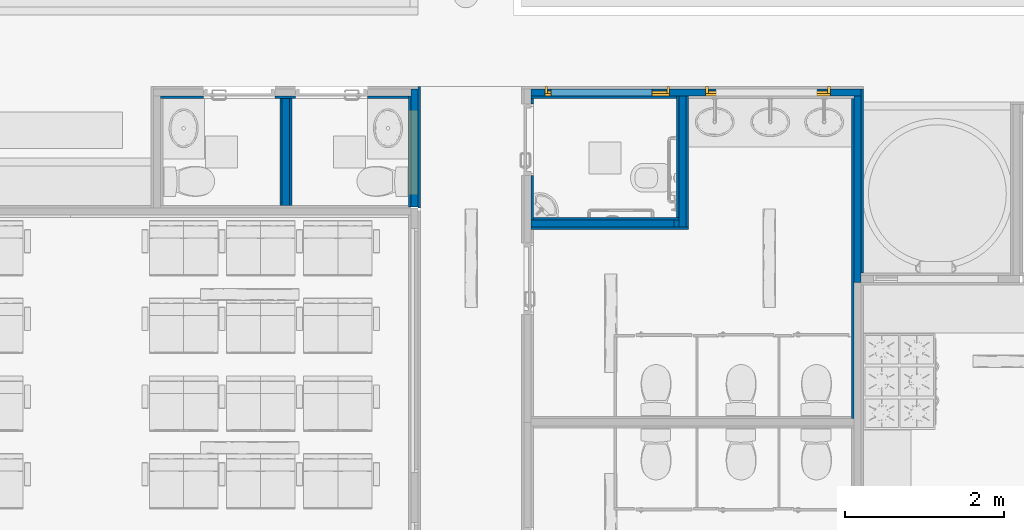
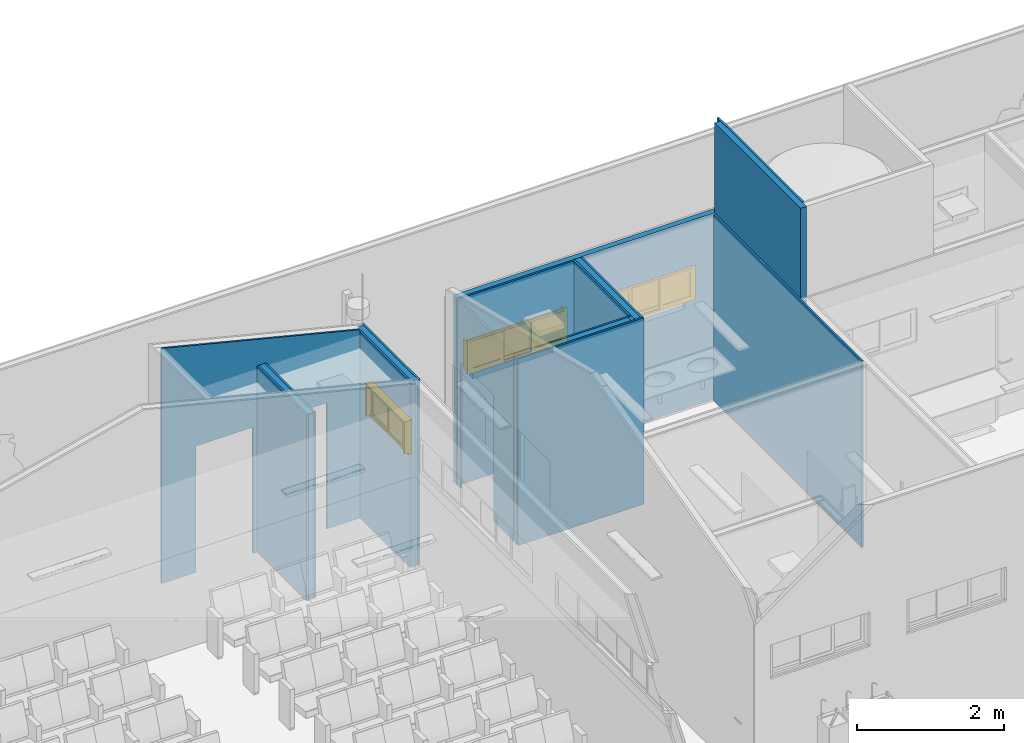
# One storey, part 35 of 155: 21 walls, 3 windows, 8 openings.
"""IFC2X3 building model written with IfcOpenShell, lengths in metres."""

import ifcopenshell
import ifcopenshell.guid

model = None  # the IFC model being written
_history = None  # IfcOwnerHistory: only IFC2X3 demands one
_inside = {}  # id of a spatial element -> (the spatial element, [elements in it])
_under = {}  # id of a project, library or spatial element -> (it, [spatial elements below it])
_declared = {}  # id of a project -> (the project, [libraries it declares])
_typed = {}  # id of a type object -> (the type object, [elements of that type])
_made_of = {}  # id of a material, layer set ... -> (it, [elements and type objects made of it])


def new_model(schema):
    """Start an empty IFC model of exactly this schema.

    Asked for "IFC4X3", IfcOpenShell would pick the latest addendum, in which some entities
    have other attributes; the version numbers below select the first issue.
    IFC2X3 requires an IfcOwnerHistory on every rooted entity: one is made here for all.
    """
    global model, _history
    if schema == "IFC4X3":
        model = ifcopenshell.file(schema_version=(4, 3, 0, 0))
    else:
        model = ifcopenshell.file(schema=schema)
    _inside.clear()
    _under.clear()
    _declared.clear()
    _typed.clear()
    _made_of.clear()
    _history = None
    if model.schema == "IFC2X3":
        org = make("IfcOrganization", Name="unknown")
        user = make(
            "IfcPersonAndOrganization",
            ThePerson=make("IfcPerson", FamilyName="unknown"),
            TheOrganization=org,
        )
        app = make(
            "IfcApplication",
            ApplicationDeveloper=org,
            Version="unknown",
            ApplicationFullName="unknown",
            ApplicationIdentifier="unknown",
        )
        _history = make(
            "IfcOwnerHistory",
            OwningUser=user,
            OwningApplication=app,
            ChangeAction="ADDED",
            CreationDate=0,
        )
    return model


def make(cls, **values):
    """One entity of the class cls with the attributes given. An attribute that is None is left unset."""
    return model.create_entity(
        cls, **{name: value for name, value in values.items() if value is not None}
    )


def entity(cls, *values):
    """Any entity or typed value of the class cls, its attributes in the order of the schema. None: left unset."""
    e = model.create_entity(cls)
    for i, value in enumerate(values):
        if value is not None:
            e[i] = value
    return e


def rooted(cls, **values):
    """An entity with a GlobalId (a new one), such as an element, a storey or a relation."""
    return make(cls, GlobalId=ifcopenshell.guid.new(), OwnerHistory=_history, **values)


def si_unit(unit_type, name, prefix=None):
    """IfcSIUnit, for example si_unit("LENGTHUNIT", "METRE", prefix="MILLI")."""
    return make("IfcSIUnit", UnitType=unit_type, Prefix=prefix, Name=name)


def converted_unit(unit_type, name, factor, base, dimensions=None, offset=None):
    """IfcConversionBasedUnit, such as the inch: factor (a typed value) times the base unit."""
    return make(
        "IfcConversionBasedUnit"
        if offset is None
        else "IfcConversionBasedUnitWithOffset",
        ConversionOffset=offset,
        Dimensions=None
        if dimensions is None
        else entity("IfcDimensionalExponents", *dimensions),
        UnitType=unit_type,
        Name=name,
        ConversionFactor=make(
            "IfcMeasureWithUnit", ValueComponent=factor, UnitComponent=base
        ),
    )


def derived_unit(unit_type, elements):
    """IfcDerivedUnit: a product of units, each with its exponent."""
    return make(
        "IfcDerivedUnit",
        Elements=[
            make("IfcDerivedUnitElement", Unit=unit, Exponent=power)
            for unit, power in elements
        ],
        UnitType=unit_type,
    )


def assignment(units):
    """IfcUnitAssignment: the units of a project."""
    return None if units is None else make("IfcUnitAssignment", Units=units)


def point(xyz):
    """IfcCartesianPoint."""
    return None if xyz is None else make("IfcCartesianPoint", Coordinates=xyz)


def direction(xyz):
    """IfcDirection."""
    return None if xyz is None else make("IfcDirection", DirectionRatios=xyz)


def frame(location, z_axis=None, x_axis=None):
    """IfcAxis2Placement3D, a coordinate frame: its origin and axes. An axis left out is left unset."""
    return make(
        "IfcAxis2Placement3D",
        Location=point(location),
        Axis=direction(z_axis),
        RefDirection=direction(x_axis),
    )


def frame_2d(location, x_axis=None):
    """IfcAxis2Placement2D, a coordinate frame in the plane: its origin and x axis."""
    return make(
        "IfcAxis2Placement2D", Location=point(location), RefDirection=direction(x_axis)
    )


def origin():
    """The frame at (0, 0, 0) with its axes left unset."""
    return frame((0.0, 0.0, 0.0))


def origin_2d_with_axis():
    """The frame at (0, 0) in the plane with the x axis (1, 0) written out."""
    return frame_2d((0.0, 0.0), x_axis=(1.0, 0.0))


def place(relative_to, where):
    """IfcLocalPlacement: puts the frame where relative to a parent placement (None: the world)."""
    return make(
        "IfcLocalPlacement", PlacementRelTo=relative_to, RelativePlacement=where
    )


def context(
    kind, dimensions, precision=None, world=None, true_north=None, identifier=None
):
    """IfcGeometricRepresentationContext, for example the 3D "Model" context."""
    return make(
        "IfcGeometricRepresentationContext",
        ContextIdentifier=identifier,
        ContextType=kind,
        CoordinateSpaceDimension=dimensions,
        Precision=precision,
        WorldCoordinateSystem=world,
        TrueNorth=true_north,
    )


def subcontext(parent, identifier, kind, view, scale=None):
    """IfcGeometricRepresentationSubContext, for example "Body" below "Model"."""
    return make(
        "IfcGeometricRepresentationSubContext",
        ContextIdentifier=identifier,
        ContextType=kind,
        ParentContext=parent,
        TargetScale=scale,
        TargetView=view,
    )


def project(units=None, contexts=None):
    """IfcProject with its units and contexts."""
    return rooted(
        "IfcProject",
        Name="project",
        RepresentationContexts=contexts,
        UnitsInContext=assignment(units),
    )


def spatial(cls, under=None, at=None, **own):
    """A site, building, storey or space (cls), placed at a placement, below another one or the project."""
    s = rooted(cls, ObjectPlacement=at, **own)
    if under is not None:
        _under.setdefault(under.id(), (under, []))[1].append(s)
    return s


def polyline(points):
    """IfcPolyline through the points."""
    return make("IfcPolyline", Points=[point(p) for p in points])


def profile(cls, at=None, kind="AREA", **sizes):
    """A parametric profile (cls). Its sizes go by their IFC names, for example OverallWidth=200.0."""
    return make(cls, ProfileType=kind, Position=at, **sizes)


def rectangle(**sizes):
    """IfcRectangleProfileDef."""
    return profile("IfcRectangleProfileDef", **sizes)


def outline(outer, holes=None, kind="AREA"):
    """IfcArbitraryClosedProfileDef: a profile drawn as a closed curve; with holes, ...WithVoids."""
    if holes is None:
        return make("IfcArbitraryClosedProfileDef", ProfileType=kind, OuterCurve=outer)
    return make(
        "IfcArbitraryProfileDefWithVoids",
        ProfileType=kind,
        OuterCurve=outer,
        InnerCurves=holes,
    )


def extrude(swept, where, along, depth):
    """IfcExtrudedAreaSolid: the profile swept, set in the frame where, extruded along a direction by depth."""
    return make(
        "IfcExtrudedAreaSolid",
        SweptArea=swept,
        Position=where,
        ExtrudedDirection=direction(along),
        Depth=depth,
    )


def clip(a, b, op="DIFFERENCE"):
    """IfcBooleanClippingResult: the solid a cut by the half space b."""
    return make(
        "IfcBooleanClippingResult", Operator=op, FirstOperand=a, SecondOperand=b
    )


def bounded_halfspace(plane, agree, where, boundary):
    """IfcPolygonalBoundedHalfSpace: a half space limited to a polygon's prism."""
    return make(
        "IfcPolygonalBoundedHalfSpace",
        BaseSurface=make("IfcPlane", Position=plane),
        AgreementFlag=agree,
        Position=where,
        PolygonalBoundary=boundary,
    )


def shape(context_of_items, identifier, shape_type, items):
    """IfcShapeRepresentation: the items that make up one representation, for example the "Body"."""
    return make(
        "IfcShapeRepresentation",
        ContextOfItems=context_of_items,
        RepresentationIdentifier=identifier,
        RepresentationType=shape_type,
        Items=items,
    )


def source(mapping_origin, context_of_items, identifier, shape_type, items):
    """IfcRepresentationMap: a shape defined once, which mapped items show again and again."""
    return make(
        "IfcRepresentationMap",
        MappingOrigin=mapping_origin,
        MappedRepresentation=shape(context_of_items, identifier, shape_type, items),
    )


def transform(
    local_origin,
    x_axis=None,
    y_axis=None,
    z_axis=None,
    scale=None,
    scale2=None,
    scale3=None,
    uniform=True,
):
    """IfcCartesianTransformationOperator3D, or its non-uniform kind. x_axis, y_axis, z_axis: its Axis1, 2, 3."""
    if uniform:
        return make(
            "IfcCartesianTransformationOperator3D",
            Axis1=direction(x_axis),
            Axis2=direction(y_axis),
            LocalOrigin=point(local_origin),
            Scale=scale,
            Axis3=direction(z_axis),
        )
    return make(
        "IfcCartesianTransformationOperator3DnonUniform",
        Axis1=direction(x_axis),
        Axis2=direction(y_axis),
        LocalOrigin=point(local_origin),
        Scale=scale,
        Axis3=direction(z_axis),
        Scale2=scale2,
        Scale3=scale3,
    )


def mapped(mapping_source, mapping_target):
    """IfcMappedItem: shows the shape of a source again, moved by a transform."""
    return make(
        "IfcMappedItem", MappingSource=mapping_source, MappingTarget=mapping_target
    )


def material(Name=None, Category=None):
    """IfcMaterial."""
    return make("IfcMaterial", Name=Name, Category=Category)


def material_list(materials):
    """IfcMaterialList."""
    return make("IfcMaterialList", Materials=materials)


def layer(
    of_material, thickness, ventilated=None, Name=None, Category=None, Priority=None
):
    """IfcMaterialLayer: one layer of a wall or slab, of a material (None: an air gap)."""
    return make(
        "IfcMaterialLayer",
        Material=of_material,
        LayerThickness=thickness,
        IsVentilated=ventilated,
        Name=Name,
        Category=Category,
        Priority=Priority,
    )


def layer_set(layers, Name=None):
    """IfcMaterialLayerSet."""
    return make("IfcMaterialLayerSet", MaterialLayers=layers, LayerSetName=Name)


def layer_usage(for_layer_set, set_direction, sense, offset, extent=None):
    """IfcMaterialLayerSetUsage: how a layer set lies in its element."""
    return make(
        "IfcMaterialLayerSetUsage",
        ForLayerSet=for_layer_set,
        LayerSetDirection=set_direction,
        DirectionSense=sense,
        OffsetFromReferenceLine=offset,
        ReferenceExtent=extent,
    )


def made_of(thing, what):
    """Note that an element or type object is made of a material, layer set ...; save() writes the relation."""
    if what is not None:
        _made_of.setdefault(what.id(), (what, []))[1].append(thing)
    return thing


def type_object(cls, material=None, **own):
    """A type object (cls), such as IfcWallType, which elements share."""
    return made_of(rooted(cls, **own), material)


def type_shapes(of_type, sources):
    """Give a type object the sources (RepresentationMaps) that its elements show as mapped items."""
    of_type.RepresentationMaps = sources


def element(
    cls,
    number,
    at=None,
    inside=None,
    cuts=None,
    type_object=None,
    material=None,
    context=None,
    identifier="Body",
    shape_type=None,
    held_by="IfcProductDefinitionShape",
    body=None,
    shapes=None,
    **own,
):
    """One element of the class cls, such as IfcWall. Its Tag is "e" and its number.

    at: its placement. inside: the storey or other place that contains it. cuts: it is an
    opening in that element (IfcRelVoidsElement). A single representation is given by context,
    identifier, shape_type and body (its items); several are given by shapes. held_by: the class
    of the entity that holds the representations. save() writes the other relations.
    """
    e = rooted(cls, Tag="e%d" % number, ObjectPlacement=at, **own)
    if body is not None:
        shapes = [shape(context, identifier, shape_type, body)]
    if shapes is not None:
        e.Representation = make(held_by, Representations=shapes)
    if inside is not None:
        _inside.setdefault(inside.id(), (inside, []))[1].append(e)
    if cuts is not None:
        rooted(
            "IfcRelVoidsElement", RelatingBuildingElement=cuts, RelatedOpeningElement=e
        )
    if type_object is not None:
        _typed.setdefault(type_object.id(), (type_object, []))[1].append(e)
    return made_of(e, material)


def fill(opening, filler):
    """IfcRelFillsElement: the door or window that sits in an opening."""
    return rooted(
        "IfcRelFillsElement",
        RelatingOpeningElement=opening,
        RelatedBuildingElement=filler,
    )


def aggregate(whole, parts):
    """IfcRelAggregates: a whole, such as a stair, and the parts it consists of."""
    return rooted("IfcRelAggregates", RelatingObject=whole, RelatedObjects=parts)


def save(model, path):
    """Write the relations noted so far, then the file.

    IfcRelAggregates (storeys below a building ...), IfcRelContainedInSpatialStructure (elements
    in a storey), IfcRelDefinesByType, IfcRelAssociatesMaterial and IfcRelDeclares: one each for
    every whole, place, type object, material and project.
    """
    for whole, parts in _under.values():
        aggregate(whole, parts)
    for where, things in _inside.values():
        rooted(
            "IfcRelContainedInSpatialStructure",
            RelatedElements=things,
            RelatingStructure=where,
        )
    for kind, things in _typed.values():
        rooted("IfcRelDefinesByType", RelatedObjects=things, RelatingType=kind)
    for what, things in _made_of.values():
        rooted("IfcRelAssociatesMaterial", RelatedObjects=things, RelatingMaterial=what)
    for by, libraries in _declared.values():
        rooted("IfcRelDeclares", RelatingContext=by, RelatedDefinitions=libraries)
    model.write(path)


model = new_model("IFC2X3")

# Units and contexts
model_context = context("Model", 3, precision=1e-05, world=origin(), true_north=direction((6.12303176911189e-17, 1.0)))
body_context = subcontext(model_context, "Body", "Model", "MODEL_VIEW")
ifc_project = project(units=[si_unit("LENGTHUNIT", "METRE"), si_unit("AREAUNIT", "SQUARE_METRE"), si_unit("VOLUMEUNIT", "CUBIC_METRE"), converted_unit("PLANEANGLEUNIT", "DEGREE", entity("IfcRatioMeasure", 0.0174532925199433), si_unit("PLANEANGLEUNIT", "RADIAN"), dimensions=[0, 0, 0, 0, 0, 0, 0]), si_unit("MASSUNIT", "GRAM", prefix="KILO"), derived_unit("MASSDENSITYUNIT", [(si_unit("MASSUNIT", "GRAM", prefix="KILO"), 1), (si_unit("LENGTHUNIT", "METRE"), -3)]), si_unit("TIMEUNIT", "SECOND"), si_unit("FREQUENCYUNIT", "HERTZ"), si_unit("THERMODYNAMICTEMPERATUREUNIT", "DEGREE_CELSIUS"), derived_unit("THERMALTRANSMITTANCEUNIT", [(si_unit("MASSUNIT", "GRAM", prefix="KILO"), 1), (si_unit("THERMODYNAMICTEMPERATUREUNIT", "KELVIN"), -1), (si_unit("TIMEUNIT", "SECOND"), -3)]), derived_unit("VOLUMETRICFLOWRATEUNIT", [(si_unit("LENGTHUNIT", "METRE"), 3), (si_unit("TIMEUNIT", "SECOND"), -1)]), si_unit("ELECTRICCURRENTUNIT", "AMPERE"), si_unit("ELECTRICVOLTAGEUNIT", "VOLT"), si_unit("POWERUNIT", "WATT"), si_unit("FORCEUNIT", "NEWTON", prefix="KILO"), si_unit("ILLUMINANCEUNIT", "LUX"), si_unit("LUMINOUSFLUXUNIT", "LUMEN"), si_unit("LUMINOUSINTENSITYUNIT", "CANDELA"), derived_unit("USERDEFINED", [(si_unit("MASSUNIT", "GRAM", prefix="KILO"), -1), (si_unit("LENGTHUNIT", "METRE"), -2), (si_unit("TIMEUNIT", "SECOND"), 3), (si_unit("LUMINOUSFLUXUNIT", "LUMEN"), 1)]), derived_unit("LINEARVELOCITYUNIT", [(si_unit("LENGTHUNIT", "METRE"), 1), (si_unit("TIMEUNIT", "SECOND"), -1)]), si_unit("PRESSUREUNIT", "PASCAL"), derived_unit("USERDEFINED", [(si_unit("LENGTHUNIT", "METRE"), -2), (si_unit("MASSUNIT", "GRAM", prefix="KILO"), 1), (si_unit("TIMEUNIT", "SECOND"), -2)])], contexts=[model_context])

# Site, building, storey
site_placement = place(None, frame((26.9889013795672, -17.5624287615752, 0.0)))
site = spatial("IfcSite", under=ifc_project, at=site_placement, Name="Default", CompositionType="ELEMENT")
building_placement = place(site_placement, origin())
building = spatial("IfcBuilding", under=site, at=building_placement, Name="C. C. L. Monsenhor Antônio Sampaio", CompositionType="ELEMENT")
storey_placement = place(building_placement, frame((0.0, 0.0, 1.19999999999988)))
storey = spatial("IfcBuildingStorey", under=building, at=storey_placement, Name="Nível 1.2", CompositionType="ELEMENT", Elevation=1.19999999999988)

# Wall, openings, windows
ifc_material_1 = material(Name="ALVENARIA")
ifc_layer_1 = layer(ifc_material_1, 0.09)
ifc_layer_set_1 = layer_set([ifc_layer_1], Name="Parede básica:ENucleo parede 15cm")
ifc_layer_usage_1 = layer_usage(ifc_layer_set_1, "AXIS2", "POSITIVE", -0.045)
wall_type_1 = type_object("IfcWallType", Name="Parede básica:ENucleo parede 15cm", PredefinedType="STANDARD", material=ifc_layer_set_1)
wall_1_placement = place(storey_placement, frame((-4.45055229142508, -8.52939236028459, 0.0)))
wall_1 = element("IfcWallStandardCase", 1, at=wall_1_placement, inside=storey, type_object=wall_type_1, material=ifc_layer_usage_1, Name="Parede básica:ENucleo parede 15cm", ObjectType="Parede básica:ENucleo parede 15cm", context=body_context, shape_type="SweptSolid", body=[
    extrude(rectangle(XDim=4.15000000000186, YDim=0.089999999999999, at=frame_2d((2.07500000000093, -1.49186218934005e-16), x_axis=(-1.0, 0.0))), origin(), (0.0, 0.0, 1.0), 3.10000000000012),
])
opening_1_placement = place(wall_1_placement, frame((2.19336474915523, -0.0450000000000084, 1.76500000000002)))
opening_1 = element("IfcOpeningElement", 2, at=opening_1_placement, cuts=wall_1, Name="Janela 150x1:150 x 50:1", ObjectType="Opening", context=body_context, shape_type="SweptSolid", body=[
    extrude(rectangle(XDim=0.570000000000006, YDim=1.56999999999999, at=frame_2d((0.285000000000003, 0.784999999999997), x_axis=(1.0, 0.0))), frame((0.0, 0.0, 0.0), z_axis=(0.0, 1.0, 0.0), x_axis=(0.0, 0.0, 1.0)), (0.0, 0.0, 1.0), 0.09),
])
opening_2_placement = place(wall_1_placement, frame((4.45055229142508, 8.52939236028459, 0.0)))
element("IfcOpeningElement", 3, at=opening_2_placement, cuts=wall_1, Name="Parede básica:ENucleo parede 15cm", ObjectType="Opening", context=body_context, shape_type="SweptSolid", body=[
    extrude(rectangle(XDim=0.47000000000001, YDim=1.26999999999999, at=frame_2d((0.0, -2.77555756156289e-16), x_axis=(1.0, 0.0))), frame((-1.48718754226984, -10.0983923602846, 1.90000000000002), z_axis=(0.0, 1.0, 0.0), x_axis=(0.0, 0.0, 1.0)), (0.0, 0.0, 1.0), 3.048),
])
opening_3_placement = place(wall_1_placement, frame((0.173364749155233, -0.0450000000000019, 1.76500000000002)))
opening_3 = element("IfcOpeningElement", 4, at=opening_3_placement, cuts=wall_1, Name="Janela 150x1:150 x 50:1", ObjectType="Opening", context=body_context, shape_type="SweptSolid", body=[
    extrude(rectangle(XDim=0.570000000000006, YDim=1.56999999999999, at=frame_2d((0.285000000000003, 0.784999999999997), x_axis=(1.0, 0.0))), frame((0.0, 0.0, 0.0), z_axis=(0.0, 1.0, 0.0), x_axis=(0.0, 0.0, 1.0)), (0.0, 0.0, 1.0), 0.09),
])
opening_4_placement = place(wall_1_placement, frame((4.45055229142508, 8.52939236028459, 0.0)))
element("IfcOpeningElement", 5, at=opening_4_placement, cuts=wall_1, Name="Parede básica:ENucleo parede 15cm", ObjectType="Opening", context=body_context, shape_type="SweptSolid", body=[
    extrude(rectangle(XDim=0.47000000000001, YDim=1.26999999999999, at=frame_2d((0.0, -2.77555756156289e-16), x_axis=(1.0, 0.0))), frame((-3.56555229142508, -10.0983923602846, 1.90000000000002), z_axis=(0.0, 1.0, 0.0), x_axis=(0.0, 0.0, 1.0)), (0.0, 0.0, 1.0), 3.048),
])
ifc_material_2 = material(Name="VIDRO COMUM LISO VERDE")
ifc_material_3 = material(Name="ALUMÍNIO COM PINTURA ELETROSTÁTICA BRANCA")
ifc_material_list_1 = material_list([ifc_material_2, ifc_material_3])
ifc_material_list_2 = material_list([ifc_material_2, ifc_material_3])
window_style_1 = type_object("IfcWindowStyle", Name="150 x 50", ConstructionType="NOTDEFINED", OperationType="NOTDEFINED", ParameterTakesPrecedence=False, Sizeable=False, material=ifc_material_list_2)
shared_shape_1 = source(origin(), body_context, "Body", "SweptSolid", [
    extrude(rectangle(XDim=0.43333, YDim=0.00599999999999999, at=frame_2d((2.77555756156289e-17, 0.0), x_axis=(1.0, 0.0))), frame((0.301610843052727, 0.00749999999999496, 0.0849999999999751), z_axis=(0.0, 0.0, 1.0), x_axis=(-1.0, 0.0, 0.0)), (0.0, 0.0, 1.0), 0.4),
    extrude(outline(polyline([(-0.250000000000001, -0.266665), (0.250000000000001, -0.266665), (0.250000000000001, 0.266665), (-0.250000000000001, 0.266665), (-0.250000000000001, -0.266665)]), holes=[polyline([(-0.200000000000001, -0.216665), (-0.200000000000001, 0.216665), (0.200000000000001, 0.216665), (0.200000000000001, -0.216665), (-0.200000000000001, -0.216665)])]), frame((0.301610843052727, -0.00500000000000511, 0.284999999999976), z_axis=(0.0, 1.0, 0.0), x_axis=(0.0, 0.0, -1.0)), (0.0, 0.0, 1.0), 0.025),
    extrude(rectangle(XDim=0.00599999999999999, YDim=0.43333, at=origin_2d_with_axis()), frame((0.784999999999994, 0.0324999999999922, 0.0849999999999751), z_axis=(0.0, 0.0, 1.0), x_axis=(0.0, -1.0, 0.0)), (0.0, 0.0, 1.0), 0.4),
    extrude(outline(polyline([(-0.266665, -0.250000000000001), (0.266665, -0.250000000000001), (0.266665, 0.250000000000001), (-0.266665, 0.250000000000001), (-0.266665, -0.250000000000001)]), holes=[polyline([(-0.216665, -0.200000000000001), (-0.216665, 0.200000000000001), (0.216665, 0.200000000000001), (0.216665, -0.200000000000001), (-0.216665, -0.200000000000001)])]), frame((0.784999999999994, 0.0199999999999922, 0.284999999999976), z_axis=(0.0, 1.0, 0.0), x_axis=(1.0, 0.0, 0.0)), (0.0, 0.0, 1.0), 0.025),
    extrude(rectangle(XDim=0.00599999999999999, YDim=0.43333, at=frame_2d((0.0, -2.77555756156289e-17), x_axis=(1.0, 0.0))), frame((1.26838915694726, 0.00749999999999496, 0.0849999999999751), z_axis=(0.0, 0.0, 1.0), x_axis=(0.0, -1.0, 0.0)), (0.0, 0.0, 1.0), 0.4),
    extrude(outline(polyline([(-0.266665, -0.250000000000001), (0.266665, -0.250000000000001), (0.266665, 0.250000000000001), (-0.266665, 0.250000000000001), (-0.266665, -0.250000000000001)]), holes=[polyline([(-0.216665, -0.200000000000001), (-0.216665, 0.200000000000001), (0.216665, 0.200000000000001), (0.216665, -0.200000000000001), (-0.216665, -0.200000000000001)])]), frame((1.26838915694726, -0.00500000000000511, 0.284999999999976), z_axis=(0.0, 1.0, 0.0), x_axis=(1.0, 0.0, 0.0)), (0.0, 0.0, 1.0), 0.025),
    extrude(rectangle(XDim=0.12, YDim=0.0349999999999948, at=origin_2d_with_axis()), frame((1.55249999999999, 0.06, 0.0349999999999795), z_axis=(0.0, 0.0, 1.0), x_axis=(0.0, -1.0, 0.0)), (0.0, 0.0, 1.0), 0.500000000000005),
    extrude(rectangle(XDim=0.12, YDim=0.0349999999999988, at=origin_2d_with_axis()), frame((0.0174999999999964, 0.06, 0.0349999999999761), z_axis=(0.0, 0.0, 1.0), x_axis=(0.0, -1.0, 0.0)), (0.0, 0.0, 1.0), 0.500000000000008),
    extrude(rectangle(XDim=0.06, YDim=1.57, at=origin_2d_with_axis()), frame((0.784999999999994, 0.03, 0.0), z_axis=(0.0, 0.0, 1.0), x_axis=(0.0, -1.0, 0.0)), (0.0, 0.0, 1.0), 0.0349999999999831),
    extrude(rectangle(XDim=0.03, YDim=1.56999999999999, at=origin_2d_with_axis()), frame((0.784999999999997, 0.015, 0.534999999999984), z_axis=(0.0, 0.0, 1.0), x_axis=(0.0, -1.0, 0.0)), (0.0, 0.0, 1.0), 0.0350000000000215),
])
type_shapes(window_style_1, [shared_shape_1])
window_1_placement = place(opening_1_placement, origin())
window_1 = element("IfcWindow", 6, at=window_1_placement, inside=storey, type_object=window_style_1, material=ifc_material_list_1, Name="Janela 150x1:150 x 50", ObjectType="150 x 50", OverallHeight=0.570000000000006, OverallWidth=1.56999999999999, context=body_context, shape_type="MappedRepresentation", body=[
    mapped(shared_shape_1, transform((0.0, 0.0, 0.0), scale=1.0)),
])
fill(opening_1, window_1)
ifc_material_list_3 = material_list([ifc_material_2, ifc_material_3])
window_2_placement = place(opening_3_placement, origin())
window_2 = element("IfcWindow", 7, at=window_2_placement, inside=storey, type_object=window_style_1, material=ifc_material_list_3, Name="Janela 150x1:150 x 50", ObjectType="150 x 50", OverallHeight=0.570000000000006, OverallWidth=1.56999999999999, context=body_context, shape_type="MappedRepresentation", body=[
    mapped(shared_shape_1, transform((0.0, 0.0, 0.0), scale=1.0)),
])
fill(opening_3, window_2)

# Walls
ifc_layer_usage_2 = layer_usage(ifc_layer_set_1, "AXIS2", "NEGATIVE", 0.045)
wall_2_placement = place(storey_placement, frame((-0.345552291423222, -8.5743923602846, 0.0), z_axis=(0.0, 0.0, 1.0), x_axis=(0.0, -1.0, 0.0)))
element("IfcWallStandardCase", 8, at=wall_2_placement, inside=storey, type_object=wall_type_1, material=ifc_layer_usage_2, Name="Parede básica:ENucleo parede 15cm", ObjectType="Parede básica:ENucleo parede 15cm", context=body_context, shape_type="SweptSolid", body=[
    extrude(rectangle(XDim=2.34867398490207, YDim=0.09, at=frame_2d((1.17433699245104, 0.0), x_axis=(-1.0, 0.0))), origin(), (0.0, 0.0, 1.0), 4.60000000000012),
])
ifc_layer_usage_3 = layer_usage(ifc_layer_set_1, "AXIS2", "POSITIVE", -0.045)
wall_3_placement = place(storey_placement, frame((-4.45055229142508, -10.1780663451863, 0.0)))
element("IfcWallStandardCase", 9, at=wall_3_placement, inside=storey, type_object=wall_type_1, material=ifc_layer_usage_3, Name="Parede básica:ENucleo parede 15cm", ObjectType="Parede básica:ENucleo parede 15cm", context=body_context, shape_type="SweptSolid", body=[
    extrude(rectangle(XDim=1.79836474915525, YDim=0.0900000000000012, at=frame_2d((0.899182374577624, 3.46944695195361e-18), x_axis=(-1.0, 0.0))), origin(), (0.0, 0.0, 1.0), 3.10000000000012),
])
ifc_layer_usage_4 = layer_usage(ifc_layer_set_1, "AXIS2", "POSITIVE", -0.045)
wall_4_placement = place(storey_placement, frame((-4.20055229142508, -8.52939236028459, 1.66500000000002)))
element("IfcWallStandardCase", 10, at=wall_4_placement, inside=storey, type_object=wall_type_1, material=ifc_layer_usage_4, Name="Parede básica:ENucleo parede 15cm", ObjectType="Parede básica:ENucleo parede 15cm", context=body_context, shape_type="SweptSolid", body=[
    extrude(rectangle(XDim=1.26999999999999, YDim=0.0900000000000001, at=frame_2d((0.0, 5.41233724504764e-16), x_axis=(1.0, 0.0))), frame((0.634999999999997, 0.0, 0.0)), (0.0, 0.0, 1.0), 0.1),
])
ifc_layer_usage_5 = layer_usage(ifc_layer_set_1, "AXIS2", "POSITIVE", -0.045)
wall_5_placement = place(storey_placement, frame((-2.54718754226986, -10.2230663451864, 0.0), z_axis=(0.0, 0.0, 1.0), x_axis=(0.0, 1.0, 0.0)))
element("IfcWallStandardCase", 11, at=wall_5_placement, inside=storey, type_object=wall_type_1, material=ifc_layer_usage_5, Name="Parede básica:ENucleo parede 15cm", ObjectType="Parede básica:ENucleo parede 15cm", context=body_context, shape_type="SweptSolid", body=[
    extrude(rectangle(XDim=1.64867398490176, YDim=0.0900000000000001, at=frame_2d((0.82433699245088, 1.04083408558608e-16), x_axis=(-1.0, 0.0))), origin(), (0.0, 0.0, 1.0), 3.10000000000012),
])
ifc_layer_usage_6 = layer_usage(ifc_layer_set_1, "AXIS2", "NEGATIVE", 0.045)
wall_6_placement = place(storey_placement, frame((-2.59218754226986, -10.1780663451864, 0.0), z_axis=(0.0, 0.0, 1.0), x_axis=(-1.0, 0.0, 0.0)))
element("IfcWallStandardCase", 12, at=wall_6_placement, inside=storey, type_object=wall_type_1, material=ifc_layer_usage_6, Name="Parede básica:ENucleo parede 15cm", ObjectType="Parede básica:ENucleo parede 15cm", context=body_context, shape_type="SweptSolid", body=[
    extrude(rectangle(XDim=0.0599999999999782, YDim=0.0900000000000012, at=frame_2d((0.0299999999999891, 0.0), x_axis=(-1.0, 0.0))), origin(), (0.0, 0.0, 1.0), 3.10000000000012),
])

# Wall, opening, window
ifc_layer_usage_7 = layer_usage(ifc_layer_set_1, "AXIS2", "NEGATIVE", 0.045)
wall_7_placement = place(storey_placement, frame((-5.91555229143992, -9.9680663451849, 0.0), z_axis=(0.0, 0.0, 1.0), x_axis=(0.0, 1.0, 0.0)))
wall_7 = element("IfcWallStandardCase", 13, at=wall_7_placement, inside=storey, type_object=wall_type_1, material=ifc_layer_usage_7, Name="Parede básica:ENucleo parede 15cm", ObjectType="Parede básica:ENucleo parede 15cm", context=body_context, shape_type="SweptSolid", body=[
    extrude(rectangle(XDim=1.48117398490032, YDim=0.089999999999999, at=frame_2d((0.740586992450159, 1.04083408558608e-17), x_axis=(-1.0, 0.0))), origin(), (0.0, 0.0, 1.0), 3.10000000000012),
])
opening_5_placement = place(wall_7_placement, frame((0.148086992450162, -0.044999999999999, 1.765)))
opening_5 = element("IfcOpeningElement", 14, at=opening_5_placement, cuts=wall_7, Name="Janela 100x50:100 x 50:1", ObjectType="Opening", context=body_context, shape_type="SweptSolid", body=[
    extrude(rectangle(XDim=0.570000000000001, YDim=1.07, at=frame_2d((0.285, 0.535), x_axis=(1.0, 0.0))), frame((0.0, 0.0, 0.0), z_axis=(0.0, 1.0, 0.0), x_axis=(0.0, 0.0, 1.0)), (0.0, 0.0, 1.0), 0.09),
])
ifc_material_list_4 = material_list([ifc_material_2, ifc_material_3])
ifc_material_list_5 = material_list([ifc_material_2, ifc_material_3])
window_style_2 = type_object("IfcWindowStyle", Name="100 x 50", ConstructionType="NOTDEFINED", OperationType="NOTDEFINED", ParameterTakesPrecedence=False, Sizeable=False, material=ifc_material_list_5)
shared_shape_2 = source(origin(), body_context, "Body", "SweptSolid", [
    extrude(rectangle(XDim=0.00599999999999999, YDim=0.4475, at=origin_2d_with_axis()), frame((0.293749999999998, 0.0583758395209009, 0.0699999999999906), z_axis=(0.0, 0.0, 1.0), x_axis=(0.0, -1.0, 0.0)), (0.0, 0.0, 1.0), 0.43),
    extrude(outline(polyline([(-0.25875, -0.250000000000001), (0.25875, -0.250000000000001), (0.25875, 0.250000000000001), (-0.25875, 0.250000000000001), (-0.25875, -0.250000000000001)]), holes=[polyline([(-0.22375, -0.215000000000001), (-0.22375, 0.215), (0.22375, 0.215), (0.22375, -0.215000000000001), (-0.22375, -0.215000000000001)])]), frame((0.293749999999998, 0.0458758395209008, 0.284999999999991), z_axis=(0.0, 1.0, 0.0), x_axis=(1.0, 0.0, 0.0)), (0.0, 0.0, 1.0), 0.025),
    extrude(rectangle(XDim=0.4475, YDim=0.00599999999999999, at=origin_2d_with_axis()), frame((0.77625, 0.0333758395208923, 0.0699999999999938), z_axis=(0.0, 0.0, 1.0), x_axis=(-1.0, 0.0, 0.0)), (0.0, 0.0, 1.0), 0.43),
    extrude(outline(polyline([(-0.250000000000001, -0.25875), (0.250000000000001, -0.25875), (0.250000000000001, 0.25875), (-0.250000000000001, 0.25875), (-0.250000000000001, -0.25875)]), holes=[polyline([(-0.215000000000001, -0.22375), (-0.215000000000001, 0.22375), (0.215000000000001, 0.22375), (0.215000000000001, -0.22375), (-0.215000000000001, -0.22375)])]), frame((0.77625, 0.0208758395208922, 0.284999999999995), z_axis=(0.0, 1.0, 0.0), x_axis=(0.0, 0.0, -1.0)), (0.0, 0.0, 1.0), 0.025),
    extrude(rectangle(XDim=0.06, YDim=1.07, at=origin_2d_with_axis()), frame((0.534999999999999, 0.03, 0.0), z_axis=(0.0, 0.0, 1.0), x_axis=(0.0, -1.0, 0.0)), (0.0, 0.0, 1.0), 0.0349999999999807),
    extrude(rectangle(XDim=0.12, YDim=0.0349999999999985, at=origin_2d_with_axis()), frame((1.0525, 0.06, 0.0349999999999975), z_axis=(0.0, 0.0, 1.0), x_axis=(0.0, -1.0, 0.0)), (0.0, 0.0, 1.0), 0.500000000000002),
    extrude(rectangle(XDim=0.12, YDim=0.0350000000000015, at=origin_2d_with_axis()), frame((0.017499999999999, 0.06, 0.0349999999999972), z_axis=(0.0, 0.0, 1.0), x_axis=(0.0, -1.0, 0.0)), (0.0, 0.0, 1.0), 0.500000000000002),
    extrude(rectangle(XDim=0.12, YDim=1.07, at=origin_2d_with_axis()), frame((0.534999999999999, 0.06, 0.534999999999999), z_axis=(0.0, 0.0, 1.0), x_axis=(0.0, -1.0, 0.0)), (0.0, 0.0, 1.0), 0.0350000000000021),
])
type_shapes(window_style_2, [shared_shape_2])
window_3_placement = place(opening_5_placement, origin())
window_3 = element("IfcWindow", 15, at=window_3_placement, inside=storey, type_object=window_style_2, material=ifc_material_list_4, Name="Janela 100x50:100 x 50", ObjectType="100 x 50", OverallHeight=0.570000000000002, OverallWidth=1.07, context=body_context, shape_type="MappedRepresentation", body=[
    mapped(shared_shape_2, transform((0.0, 0.0, 0.0), scale=1.0)),
])
fill(opening_5, window_3)

# Walls
ifc_layer_usage_8 = layer_usage(ifc_layer_set_1, "AXIS2", "POSITIVE", -0.045)
wall_8_placement = place(storey_placement, frame((-7.53555229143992, -8.60689236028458, 0.0), z_axis=(0.0, 0.0, 1.0), x_axis=(0.0, -1.0, 0.0)))
element("IfcWallStandardCase", 16, at=wall_8_placement, inside=storey, type_object=wall_type_1, material=ifc_layer_usage_8, Name="Parede básica:ENucleo parede 15cm", ObjectType="Parede básica:ENucleo parede 15cm", context=body_context, shape_type="SweptSolid", body=[
    extrude(rectangle(XDim=1.34617398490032, YDim=0.089999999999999, at=frame_2d((0.673086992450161, 0.0), x_axis=(-1.0, 0.0))), origin(), (0.0, 0.0, 1.0), 3.10000000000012),
])
ifc_material_4 = material(Name=".CERÂMICA 10x10 BRANCA")
ifc_layer_2 = layer(ifc_material_4, 0.0035)
ifc_material_5 = material(Name="Argamassa Colante")
ifc_layer_3 = layer(ifc_material_5, 0.02)
ifc_material_6 = material(Name="4")
ifc_layer_4 = layer(ifc_material_6, 0.0015)
ifc_material_7 = material(Name="3")
ifc_layer_5 = layer(ifc_material_7, 0.005)
ifc_layer_set_2 = layer_set([ifc_layer_2, ifc_layer_3, ifc_layer_4, ifc_layer_5], Name="Parede básica:ECeramica branca 10x10cm")
ifc_layer_usage_9 = layer_usage(ifc_layer_set_2, "AXIS2", "NEGATIVE", 0.015)
wall_type_2 = type_object("IfcWallType", Name="Parede básica:ECeramica branca 10x10cm", PredefinedType="STANDARD", material=ifc_layer_set_2)
wall_9_placement = place(storey_placement, frame((-2.60718754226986, -10.1030663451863, 0.0), z_axis=(0.0, 0.0, 1.0), x_axis=(0.0, 1.0, 0.0)))
element("IfcWallStandardCase", 17, at=wall_9_placement, inside=storey, type_object=wall_type_2, material=ifc_layer_usage_9, Name="Parede básica:ECeramica branca 10x10cm", ObjectType="Parede básica:ECeramica branca 10x10cm", context=body_context, shape_type="SweptSolid", body=[
    extrude(rectangle(XDim=1.52867398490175, YDim=0.0299999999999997, at=frame_2d((0.764336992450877, -8.67361737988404e-19), x_axis=(-1.0, 0.0))), origin(), (0.0, 0.0, 1.0), 3.10000000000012),
])
ifc_layer_usage_10 = layer_usage(ifc_layer_set_2, "AXIS2", "POSITIVE", -0.015)
wall_10_placement = place(storey_placement, frame((-4.45055229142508, -10.2380663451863, 0.0)))
element("IfcWallStandardCase", 18, at=wall_10_placement, inside=storey, type_object=wall_type_2, material=ifc_layer_usage_10, Name="Parede básica:ECeramica branca 10x10cm", ObjectType="Parede básica:ECeramica branca 10x10cm", context=body_context, shape_type="SweptSolid", body=[
    extrude(rectangle(XDim=1.97836474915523, YDim=0.0300000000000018, at=frame_2d((0.989182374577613, 4.9439619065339e-17), x_axis=(-1.0, 0.0))), origin(), (0.0, 0.0, 1.0), 3.10000000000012),
])
ifc_layer_usage_11 = layer_usage(ifc_layer_set_2, "AXIS2", "POSITIVE", -0.015)
wall_11_placement = place(storey_placement, frame((-2.48718754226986, -10.2230663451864, 0.0), z_axis=(0.0, 0.0, 1.0), x_axis=(0.0, 1.0, 0.0)))
element("IfcWallStandardCase", 19, at=wall_11_placement, inside=storey, type_object=wall_type_2, material=ifc_layer_usage_11, Name="Parede básica:ECeramica branca 10x10cm", ObjectType="Parede básica:ECeramica branca 10x10cm", context=body_context, shape_type="SweptSolid", body=[
    extrude(rectangle(XDim=1.64867398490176, YDim=0.0299999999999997, at=frame_2d((0.82433699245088, 2.60208521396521e-18), x_axis=(-1.0, 0.0))), origin(), (0.0, 0.0, 1.0), 3.10000000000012),
])
ifc_layer_usage_12 = layer_usage(ifc_layer_set_2, "AXIS2", "POSITIVE", -0.015)
wall_12_placement = place(storey_placement, frame((-0.405552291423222, -8.6043923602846, 0.0), z_axis=(0.0, 0.0, 1.0), x_axis=(0.0, -1.0, 0.0)))
element("IfcWallStandardCase", 20, at=wall_12_placement, inside=storey, type_object=wall_type_2, material=ifc_layer_usage_12, Name="Parede básica:ECeramica branca 10x10cm", ObjectType="Parede básica:ECeramica branca 10x10cm", context=body_context, shape_type="SweptSolid", body=[
    extrude(rectangle(XDim=4.02867398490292, YDim=0.03, at=frame_2d((2.01433699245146, 2.60208521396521e-18), x_axis=(-1.0, 0.0))), origin(), (0.0, 0.0, 1.0), 3.10000000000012),
])
ifc_layer_usage_13 = layer_usage(ifc_layer_set_2, "AXIS2", "NEGATIVE", 0.015)
wall_13_placement = place(storey_placement, frame((-2.62218754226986, -8.58939236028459, 0.0), z_axis=(0.0, 0.0, 1.0), x_axis=(-1.0, 0.0, 0.0)))
element("IfcWallStandardCase", 21, at=wall_13_placement, inside=storey, type_object=wall_type_2, material=ifc_layer_usage_13, Name="Parede básica:ECeramica branca 10x10cm", ObjectType="Parede básica:ECeramica branca 10x10cm", context=body_context, shape_type="SweptSolid", body=[
    extrude(rectangle(XDim=1.82836474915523, YDim=0.0299999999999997, at=frame_2d((0.914182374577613, 0.0), x_axis=(-1.0, 0.0))), origin(), (0.0, 0.0, 1.0), 3.10000000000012),
])

# Wall, opening
ifc_layer_usage_14 = layer_usage(ifc_layer_set_2, "AXIS2", "NEGATIVE", 0.015)
wall_14_placement = place(storey_placement, frame((-4.43555229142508, -8.60439236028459, 0.0), z_axis=(0.0, 0.0, 1.0), x_axis=(0.0, -1.0, 0.0)))
wall_14 = element("IfcWallStandardCase", 22, at=wall_14_placement, inside=storey, type_object=wall_type_2, material=ifc_layer_usage_14, Name="Parede básica:ECeramica branca 10x10cm", ObjectType="Parede básica:ECeramica branca 10x10cm", context=body_context, shape_type="SweptSolid", body=[
    extrude(rectangle(XDim=1.52867398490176, YDim=0.0299999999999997, at=frame_2d((0.76433699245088, 2.60208521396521e-18), x_axis=(-1.0, 0.0))), origin(), (0.0, 0.0, 1.0), 3.10000000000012),
])
opening_6_placement = place(wall_14_placement, origin())
element("IfcOpeningElement", 23, at=opening_6_placement, cuts=wall_14, Name="Parede básica:ECeramica branca 10x10cm", ObjectType="Opening", context=body_context, shape_type="SweptSolid", body=[
    extrude(rectangle(XDim=2.09999999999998, YDim=0.9, at=frame_2d((-3.33066907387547e-16, 5.27355936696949e-16), x_axis=(1.0, 0.0))), frame((0.5225, -1.629, 1.04999999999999), z_axis=(0.0, 1.0, 0.0), x_axis=(0.0, 0.0, 1.0)), (0.0, 0.0, 1.0), 3.048),
])

# Walls
ifc_layer_usage_15 = layer_usage(ifc_layer_set_2, "AXIS2", "NEGATIVE", 0.015)
wall_15_placement = place(storey_placement, frame((-4.42055229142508, -10.1180663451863, 0.0)))
element("IfcWallStandardCase", 24, at=wall_15_placement, inside=storey, type_object=wall_type_2, material=ifc_layer_usage_15, Name="Parede básica:ECeramica branca 10x10cm", ObjectType="Parede básica:ECeramica branca 10x10cm", context=body_context, shape_type="SweptSolid", body=[
    extrude(rectangle(XDim=1.82836474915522, YDim=0.0300000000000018, at=frame_2d((0.914182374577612, 5.3776427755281e-17), x_axis=(-1.0, 0.0))), origin(), (0.0, 0.0, 1.0), 3.10000000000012),
])
ifc_layer_usage_16 = layer_usage(ifc_layer_set_2, "AXIS2", "NEGATIVE", 0.015)
wall_16_placement = place(storey_placement, frame((-5.97555229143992, -9.9680663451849, 0.0), z_axis=(0.0, 0.0, 1.0), x_axis=(0.0, 1.0, 0.0)))
element("IfcWallStandardCase", 25, at=wall_16_placement, inside=storey, type_object=wall_type_2, material=ifc_layer_usage_16, Name="Parede básica:ECeramica branca 10x10cm", ObjectType="Parede básica:ECeramica branca 10x10cm", context=body_context, shape_type="SweptSolid", body=[
    extrude(rectangle(XDim=1.39117398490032, YDim=0.0299999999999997, at=frame_2d((0.695586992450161, 1.38777878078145e-17), x_axis=(-1.0, 0.0))), origin(), (0.0, 0.0, 1.0), 3.10000000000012),
])

# Wall, openings
ifc_layer_usage_17 = layer_usage(ifc_layer_set_2, "AXIS2", "NEGATIVE", 0.015)
wall_17_placement = place(storey_placement, frame((-5.99055229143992, -8.59189236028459, 0.0), z_axis=(0.0, 0.0, 1.0), x_axis=(-1.0, 0.0, 0.0)))
wall_17 = element("IfcWallStandardCase", 26, at=wall_17_placement, inside=storey, type_object=wall_type_2, material=ifc_layer_usage_17, Name="Parede básica:ECeramica branca 10x10cm", ObjectType="Parede básica:ECeramica branca 10x10cm", context=body_context, shape_type="Clipping", body=[
    clip(extrude(rectangle(XDim=3.12, YDim=0.0299999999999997, at=frame_2d((1.56, 1.90819582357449e-16), x_axis=(-1.0, 0.0))), origin(), (0.0, 0.0, 1.0), 3.91568098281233), bounded_halfspace(frame((0.0, -0.0149999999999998, 3.13568098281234), z_axis=(-0.242535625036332, 0.0, 0.970142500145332), x_axis=(0.0, -1.0, 0.0)), False, frame((0.0, -0.0149999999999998, 3.13568098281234)), polyline([(0.0, 0.0), (3.12, 0.0), (3.12, 0.0299999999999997), (3.09, 0.0299999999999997), (0.0, 0.0299999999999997), (0.0, 0.0)]))),
])
opening_7_placement = place(wall_17_placement, origin())
element("IfcOpeningElement", 27, at=opening_7_placement, cuts=wall_17, Name="Parede básica:ECeramica branca 10x10cm", ObjectType="Opening", context=body_context, shape_type="SweptSolid", body=[
    extrude(rectangle(XDim=2.09999999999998, YDim=0.9, at=frame_2d((5.27355936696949e-16, 0.0), x_axis=(0.0, 1.0))), frame((0.970000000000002, -1.539, 1.04999999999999), z_axis=(0.0, 1.0, 0.0), x_axis=(-1.0, 0.0, 0.0)), (0.0, 0.0, 1.0), 3.048),
])
opening_8_placement = place(wall_17_placement, origin())
element("IfcOpeningElement", 28, at=opening_8_placement, cuts=wall_17, Name="Parede básica:ECeramica branca 10x10cm", ObjectType="Opening", context=body_context, shape_type="SweptSolid", body=[
    extrude(rectangle(XDim=2.09999999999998, YDim=0.9, at=frame_2d((-3.33066907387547e-16, 5.27355936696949e-16), x_axis=(1.0, 0.0))), frame((2.13, -1.53900000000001, 1.04999999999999), z_axis=(0.0, 1.0, 0.0), x_axis=(0.0, 0.0, 1.0)), (0.0, 0.0, 1.0), 3.048),
])

# Walls
ifc_layer_usage_18 = layer_usage(ifc_layer_set_2, "AXIS2", "NEGATIVE", 0.015)
wall_18_placement = place(storey_placement, frame((-7.47555229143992, -8.60689236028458, 0.0), z_axis=(0.0, 0.0, 1.0), x_axis=(0.0, -1.0, 0.0)))
element("IfcWallStandardCase", 29, at=wall_18_placement, inside=storey, type_object=wall_type_2, material=ifc_layer_usage_18, Name="Parede básica:ECeramica branca 10x10cm", ObjectType="Parede básica:ECeramica branca 10x10cm", context=body_context, shape_type="SweptSolid", body=[
    extrude(rectangle(XDim=1.34617398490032, YDim=0.0299999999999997, at=frame_2d((0.673086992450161, 0.0), x_axis=(-1.0, 0.0))), origin(), (0.0, 0.0, 1.0), 3.10000000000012),
])
ifc_layer_usage_19 = layer_usage(ifc_layer_set_2, "AXIS2", "POSITIVE", -0.015)
wall_19_placement = place(storey_placement, frame((-7.59555229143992, -8.60689236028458, 0.0), z_axis=(0.0, 0.0, 1.0), x_axis=(0.0, -1.0, 0.0)))
element("IfcWallStandardCase", 30, at=wall_19_placement, inside=storey, type_object=wall_type_2, material=ifc_layer_usage_19, Name="Parede básica:ECeramica branca 10x10cm", ObjectType="Parede básica:ECeramica branca 10x10cm", context=body_context, shape_type="SweptSolid", body=[
    extrude(rectangle(XDim=1.34617398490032, YDim=0.0299999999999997, at=frame_2d((0.673086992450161, 0.0), x_axis=(-1.0, 0.0))), origin(), (0.0, 0.0, 1.0), 3.10000000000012),
])
ifc_material_8 = material(Name="Acabamento amarelo")
ifc_layer_6 = layer(ifc_material_8, 0.0035)
ifc_material_9 = material(Name="Massa corrida")
ifc_layer_7 = layer(ifc_material_9, 0.02)
ifc_layer_8 = layer(ifc_material_6, 0.0015)
ifc_layer_9 = layer(ifc_material_7, 0.005)
ifc_layer_set_3 = layer_set([ifc_layer_6, ifc_layer_7, ifc_layer_8, ifc_layer_9], Name="Parede básica:EPintura amarela")
ifc_layer_usage_20 = layer_usage(ifc_layer_set_3, "AXIS2", "POSITIVE", -0.015)
wall_type_3 = type_object("IfcWallType", Name="Parede básica:EPintura amarela", PredefinedType="STANDARD", material=ifc_layer_set_3)
wall_20_placement = place(storey_placement, frame((-0.285552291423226, -10.8030663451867, 0.0), z_axis=(0.0, 0.0, 1.0), x_axis=(0.0, 1.0, 0.0)))
element("IfcWallStandardCase", 31, at=wall_20_placement, inside=storey, type_object=wall_type_3, material=ifc_layer_usage_20, Name="Parede básica:EPintura amarela", ObjectType="Parede básica:EPintura amarela", context=body_context, shape_type="SweptSolid", body=[
    extrude(rectangle(XDim=2.31867398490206, YDim=0.03, at=frame_2d((1.15933699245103, 1.73472347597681e-18), x_axis=(-1.0, 0.0))), origin(), (0.0, 0.0, 1.0), 4.60000000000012),
])
ifc_layer_usage_21 = layer_usage(ifc_layer_set_3, "AXIS2", "POSITIVE", -0.015)
wall_21_placement = place(storey_placement, frame((-5.85555229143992, -9.9855663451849, 0.0), z_axis=(0.0, 0.0, 1.0), x_axis=(0.0, 1.0, 0.0)))
element("IfcWallStandardCase", 32, at=wall_21_placement, inside=storey, type_object=wall_type_3, material=ifc_layer_usage_21, Name="Parede básica:EPintura amarela", ObjectType="Parede básica:EPintura amarela", context=body_context, shape_type="SweptSolid", body=[
    extrude(rectangle(XDim=1.52867398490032, YDim=0.0299999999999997, at=frame_2d((0.764336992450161, 2.60208521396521e-17), x_axis=(-1.0, 0.0))), origin(), (0.0, 0.0, 1.0), 3.10000000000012),
])

save(model, "model.ifc")
